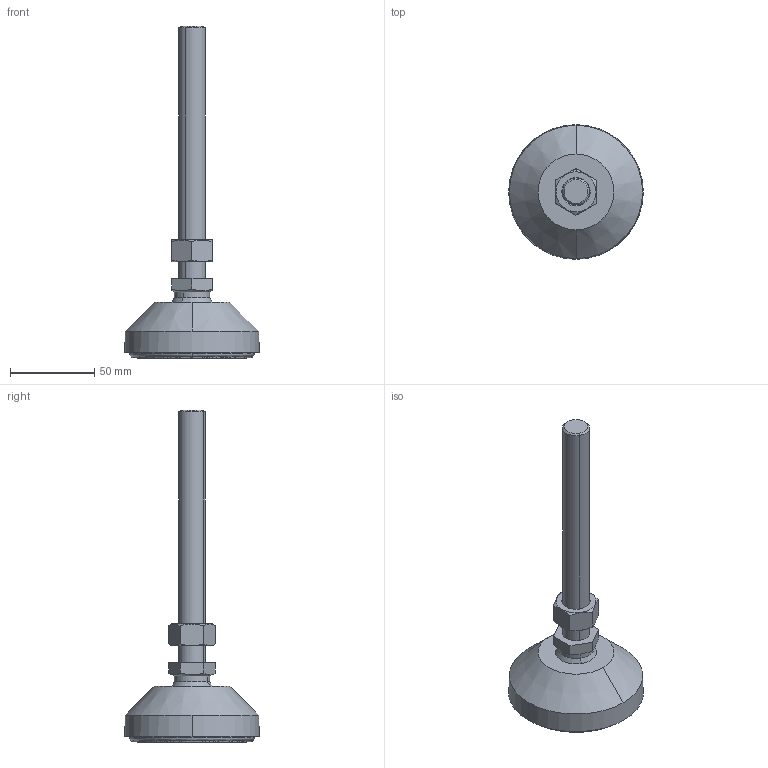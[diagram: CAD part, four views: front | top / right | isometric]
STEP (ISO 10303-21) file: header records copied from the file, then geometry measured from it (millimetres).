
FILE_DESCRIPTION (( 'STEP AP203' ), '1' );
FILE_NAME ('DY-U8016150.STEP', '2021-05-06T09:24:06', ( '' ), ( '' ), 'SwSTEP 2.0', 'SolidWorks 2017', '' );
FILE_SCHEMA (( 'CONFIG_CONTROL_DESIGN' ));
Length unit declared in the file: millimetre
Products named in the file (1): DY-U8016150
Bounding box: 80 x 80 x 197.16 mm (x, y, z)
Volume: 168905.2 mm3; surface area: 41321.3 mm2
Topology: 5 solids, 5 shells, 440 faces, 1155 edges, 695 vertices
Faces by surface type: plane 277, cylinder 72, cone 50, bspline 41
Entity records: 15150 total; most frequent: CARTESIAN_POINT 4286, ORIENTED_EDGE 2298, DIRECTION 2273, EDGE_CURVE 1149, AXIS2_PLACEMENT_3D 840, VERTEX_POINT 695, VECTOR 593, LINE 593
